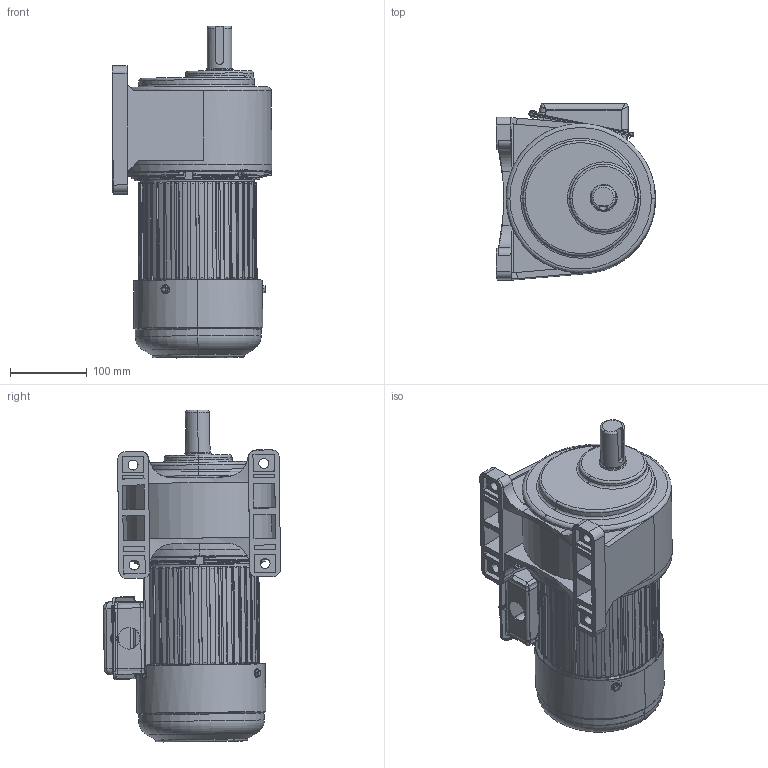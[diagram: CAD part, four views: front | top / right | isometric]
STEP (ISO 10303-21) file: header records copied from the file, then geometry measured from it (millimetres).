
FILE_DESCRIPTION (( 'STEP AP203' ), '1' );
FILE_NAME ('单相400W4#卧式.STEP', '2015-10-31T05:32:59', ( '微软中国' ), ( '微软用户' ), 'SwSTEP 2.0', 'SolidWorks 2009', '' );
FILE_SCHEMA (( 'CONFIG_CONTROL_DESIGN' ));
Length unit declared in the file: millimetre
Products named in the file (11): 等眈400W; 等眈諉盄碟窒璃; 等眈諉盄碟裔; 等眈諉盄碟釱; 等眈400W4#拏宒; 4#拏宒眊极; 400W儂褲; 鞠褒蹟邡_GB_FASTENER_BOLT_HFBB M5X10-N; 棠憤迖殤400W; 等眈 瑞欶400W; Cross recessed pan head screws GB_GB_CROSS_SCREWS_TYPE1 M5X6-6  H type-N
Assembly tree (12 placements, depth 4):
  等眈400W4#拏宒
    等眈400W
      等眈諉盄碟窒璃
        Cross recessed pan head screws GB_GB_CROSS_SCREWS_TYPE1 M5X6-6  H type-N
        等眈諉盄碟裔
        等眈諉盄碟釱
      400W儂褲
      鞠褒蹟邡_GB_FASTENER_BOLT_HFBB M5X10-N  x3
      棠憤迖殤400W
      等眈 瑞欶400W
    4#拏宒眊极
Bounding box: 207.4 x 230.12 x 431.6 mm (x, y, z)
Volume: 4893714.5 mm3; surface area: 722810.2 mm2
Topology: 10 solids, 10 shells, 1973 faces, 5321 edges, 3313 vertices
Faces by surface type: plane 838, cylinder 550, bspline 502, torus 47, cone 34, sphere 2
Entity records: 84109 total; most frequent: CARTESIAN_POINT 38456, ORIENTED_EDGE 10224, DIRECTION 7933, EDGE_CURVE 5112, VERTEX_POINT 3253, AXIS2_PLACEMENT_3D 2713, VECTOR 2507, LINE 2507
